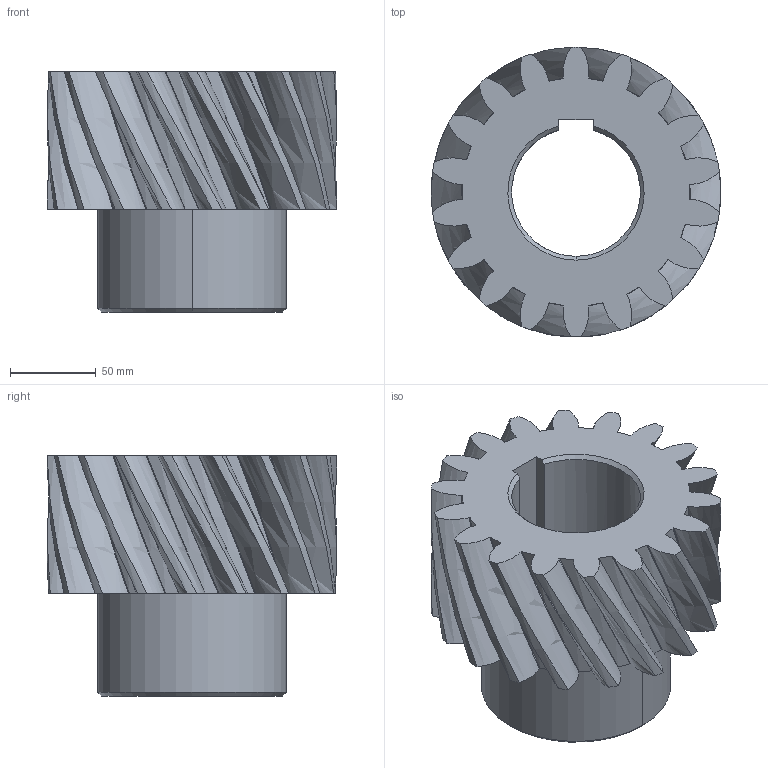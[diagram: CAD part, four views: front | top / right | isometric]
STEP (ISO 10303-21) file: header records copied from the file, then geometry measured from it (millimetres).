
FILE_DESCRIPTION (( 'STEP AP214' ), '1' );
FILE_NAME ('M8-18-75-L.step', '2021-12-03T07:00:19', ( 'IT Division' ), ( 'IT' ), 'SwSTEP 2.0', 'SolidWorks 2016', '' );
FILE_SCHEMA (( 'AUTOMOTIVE_DESIGN' ));
Length unit declared in the file: millimetre
Products named in the file (1): M8-18-75-L
Bounding box: 168.78 x 168.78 x 140 mm (x, y, z)
Volume: 1370213.2 mm3; surface area: 162421 mm2
Topology: 1 solids, 1 shells, 1107 faces, 3061 edges, 2040 vertices
Faces by surface type: bspline 725, plane 271, cylinder 106, cone 5
Entity records: 113693 total; most frequent: CARTESIAN_POINT 92342, ORIENTED_EDGE 6122, EDGE_CURVE 3061, B_SPLINE_CURVE_WITH_KNOTS 2064, VERTEX_POINT 2040, DIRECTION 1721, EDGE_LOOP 1193, ADVANCED_FACE 1107
